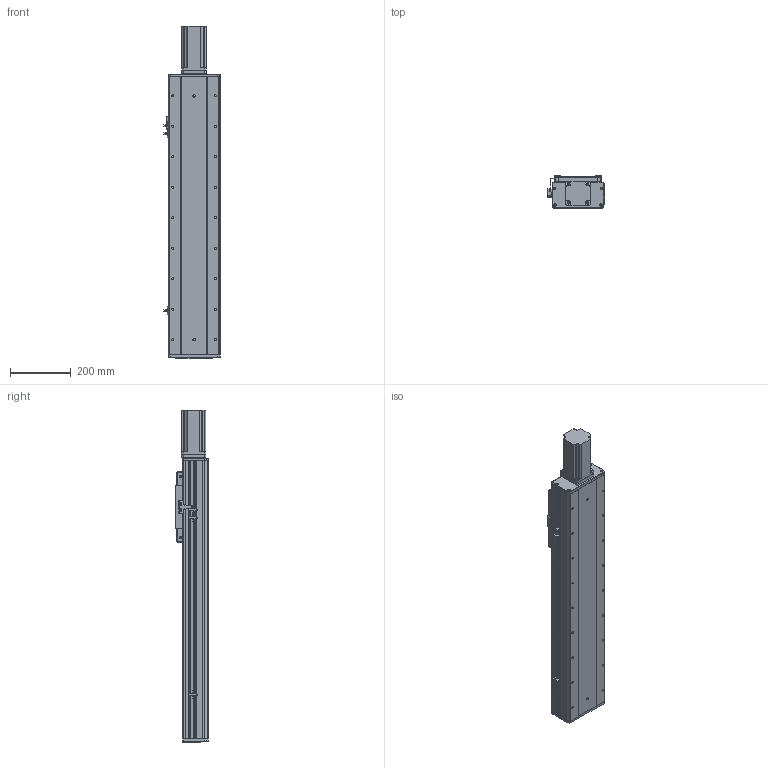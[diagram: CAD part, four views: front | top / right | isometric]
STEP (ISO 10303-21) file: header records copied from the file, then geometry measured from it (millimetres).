
FILE_DESCRIPTION (( 'STEP AP203' ), '1' );
FILE_NAME ('RY170F-L2020-300-MK.SLDASM_600.step', '2021-03-02T06:31:25', ( '盈信电脑' ), ( '东莞市道滘镇水果街19号' ), 'SwSTEP 2.0', 'SolidWorks 2012', '' );
FILE_SCHEMA (( 'CONFIG_CONTROL_DESIGN' ));
Products named in the file (22): 覜茼ん674; RY170F-L2020-300-MK.SLDASM_600; 怢湛750W萇儂ㄗ80遺ㄘ; 750W萇儂梓袧蛌諉啣; 侐源滅袉蝶; 滅袉蝶18-24; RY170F-詩湍揤踡輸; RY170F-揤踡謫假蚾粣; RY170F俋离覜茼え; RY170F-后盖板(铝件）; 滅袉蝶18-10; 覜茼ん672; RY100F-詩湍揤踡謫; RY170F-直连前盖板(铝件）; 侂狟400W侜督萇儂; 15; RY170F-丝杆铝滑块连接板; RY170F-滅鳥奻裔; RY170F-300眻蟀倰第奻裔啣-MK_600; RY170F-300眻蟀祥凄詩湍-MK_600; RY170F-佪裝臏賑輸20蹟譫; RY170F-300眻蟀倰第菁釱-MK_600
Assembly tree (26 placements, depth 3):
  RY170F-L2020-300-MK.SLDASM_600
    RY170F-300眻蟀倰第菁釱-MK_600
    RY170F-300眻蟀祥凄詩湍-MK_600
    RY170F-300眻蟀倰第奻裔啣-MK_600  x2
    RY170F-滅鳥奻裔
    RY170F-佪裝臏賑輸20蹟譫
    RY170F-丝杆铝滑块连接板
    侂狟400W侜督萇儂
      15
    RY170F-直连前盖板(铝件）
    滅袉蝶18-10
    RY100F-詩湍揤踡謫
    RY170F-后盖板(铝件）
    覜茼ん672  x3
    RY170F俋离覜茼え
    RY170F-揤踡謫假蚾粣
    RY170F-詩湍揤踡輸  x2
    滅袉蝶18-24
    750W萇儂梓袧蛌諉啣
    怢湛750W萇儂ㄗ80遺ㄘ
    侐源滅袉蝶  x2
    覜茼ん674
Bounding box: 183.7 x 107 x 1089 mm (x, y, z)
Volume: 6080172.6 mm3; surface area: 1833570.4 mm2
Topology: 25 solids, 25 shells, 2240 faces, 6171 edges, 3952 vertices
Faces by surface type: plane 1001, cylinder 993, cone 228, bspline 18
Entity records: 65663 total; most frequent: CARTESIAN_POINT 12959, DIRECTION 10773, ORIENTED_EDGE 10302, EDGE_CURVE 5151, AXIS2_PLACEMENT_3D 3832, VERTEX_POINT 3372, VECTOR 3109, LINE 3109
